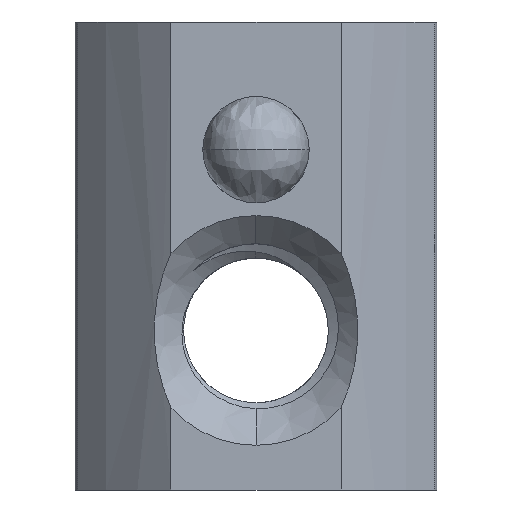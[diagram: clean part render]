
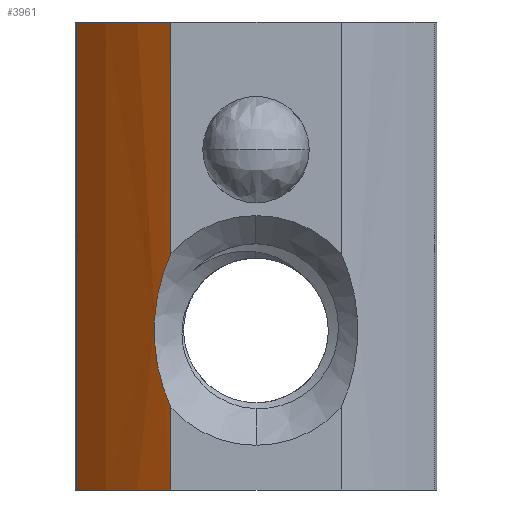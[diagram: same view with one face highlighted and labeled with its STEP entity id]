
A CAD part, front view. The second image highlights one B-rep face of the part: STEP entity #3961.
In plain terms, the highlighted cylindrical face has radius 24.5 mm (diameter 49 mm), a partial arc.
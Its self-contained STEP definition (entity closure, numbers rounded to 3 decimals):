
#33 = CARTESIAN_POINT ( 'NONE',  ( -4., -9.6, 11.128 ) ) ;
#372 = CARTESIAN_POINT ( 'NONE',  ( -4., -9.6, 22. ) ) ;
#762 = CARTESIAN_POINT ( 'NONE',  ( -4.447, -9.26, 5.01 ) ) ;
#875 = EDGE_CURVE ( 'NONE', #2333, #2436, #3108, .T. ) ;
#1174 = CARTESIAN_POINT ( 'NONE',  ( -4., -9.6, 3.872 ) ) ;
#1187 = LINE ( 'NONE', #8102, #2527 ) ;
#1288 = AXIS2_PLACEMENT_3D ( 'NONE', #1389, #6654, #2152 ) ;
#1304 = DIRECTION ( 'NONE',  ( 1., 0., 0. ) ) ;
#1389 = CARTESIAN_POINT ( 'NONE',  ( 10.617, 10.062, 22. ) ) ;
#1531 = CARTESIAN_POINT ( 'NONE',  ( -4.702, -9.059, 6.234 ) ) ;
#1791 = AXIS2_PLACEMENT_3D ( 'NONE', #8027, #6533, #1304 ) ;
#2085 = EDGE_CURVE ( 'NONE', #9627, #6494, #7374, .T. ) ;
#2152 = DIRECTION ( 'NONE',  ( 1., 0., 0. ) ) ;
#2304 = CARTESIAN_POINT ( 'NONE',  ( -4.788, -8.989, 7.183 ) ) ;
#2333 = VERTEX_POINT ( 'NONE', #372 ) ;
#2436 = VERTEX_POINT ( 'NONE', #8483 ) ;
#2527 = VECTOR ( 'NONE', #8069, 1000. ) ;
#2533 = VECTOR ( 'NONE', #3319, 1000. ) ;
#3043 = CARTESIAN_POINT ( 'NONE',  ( -4.772, -9.002, 8.126 ) ) ;
#3108 = CIRCLE ( 'NONE', #1288, 24.5 ) ;
#3137 = ORIENTED_EDGE ( 'NONE', *, *, #875, .T. ) ;
#3288 = CARTESIAN_POINT ( 'NONE',  ( 10.617, 10.062, 0. ) ) ;
#3319 = DIRECTION ( 'NONE',  ( 0., 0., 1. ) ) ;
#3370 = LINE ( 'NONE', #4705, #9121 ) ;
#3611 = VERTEX_POINT ( 'NONE', #5780 ) ;
#3793 = CARTESIAN_POINT ( 'NONE',  ( -4.651, -9.099, 9.068 ) ) ;
#3949 = DIRECTION ( 'NONE',  ( 0., 0., -1. ) ) ;
#3961 = ADVANCED_FACE ( 'NONE', ( #7836 ), #6925, .T. ) ;
#4040 = DIRECTION ( 'NONE',  ( 1., 0., 0. ) ) ;
#4503 = LINE ( 'NONE', #7806, #2533 ) ;
#4546 = CARTESIAN_POINT ( 'NONE',  ( -4.252, -9.412, 10.57 ) ) ;
#4705 = CARTESIAN_POINT ( 'NONE',  ( -8.388, -5.4, 22. ) ) ;
#4736 = EDGE_LOOP ( 'NONE', ( #5689, #4900, #7043, #3137, #9562, #7436 ) ) ;
#4900 = ORIENTED_EDGE ( 'NONE', *, *, #2085, .T. ) ;
#5052 = EDGE_CURVE ( 'NONE', #2436, #3611, #3370, .T. ) ;
#5263 = CARTESIAN_POINT ( 'NONE',  ( -4., -9.6, 0. ) ) ;
#5284 = CARTESIAN_POINT ( 'NONE',  ( -4., -9.6, 3.872 ) ) ;
#5689 = ORIENTED_EDGE ( 'NONE', *, *, #8851, .T. ) ;
#5744 = EDGE_CURVE ( 'NONE', #6494, #2333, #4503, .T. ) ;
#5780 = CARTESIAN_POINT ( 'NONE',  ( -8.388, -5.4, 0. ) ) ;
#5885 = CARTESIAN_POINT ( 'NONE',  ( -4., -9.6, 11.128 ) ) ;
#6036 = CARTESIAN_POINT ( 'NONE',  ( -4.649, -9.1, 5.922 ) ) ;
#6494 = VERTEX_POINT ( 'NONE', #5885 ) ;
#6533 = DIRECTION ( 'NONE',  ( 0., 0., 1. ) ) ;
#6654 = DIRECTION ( 'NONE',  ( 0., 0., -1. ) ) ;
#6792 = CARTESIAN_POINT ( 'NONE',  ( -4.771, -9.003, 6.867 ) ) ;
#6925 = CYLINDRICAL_SURFACE ( 'NONE', #1791, 24.5 ) ;
#7043 = ORIENTED_EDGE ( 'NONE', *, *, #5744, .T. ) ;
#7183 = EDGE_CURVE ( 'NONE', #3611, #7999, #8607, .T. ) ;
#7374 = B_SPLINE_CURVE_WITH_KNOTS ( 'NONE', 3,
 ( #5284, #9772, #762, #6036, #1531, #6792, #2304, #7542, #3043, #8288, #3793, #9040, #4546, #33 ),
 .UNSPECIFIED., .F., .F.,
 ( 4, 2, 2, 2, 2, 2, 4 ),
 ( 0., 0.002, 0.003, 0.004, 0.005, 0.006, 0.008 ),
 .UNSPECIFIED. ) ;
#7436 = ORIENTED_EDGE ( 'NONE', *, *, #7183, .T. ) ;
#7542 = CARTESIAN_POINT ( 'NONE',  ( -4.789, -8.988, 7.812 ) ) ;
#7806 = CARTESIAN_POINT ( 'NONE',  ( -4., -9.6, 22. ) ) ;
#7836 = FACE_OUTER_BOUND ( 'NONE', #4736, .T. ) ;
#7999 = VERTEX_POINT ( 'NONE', #5263 ) ;
#8027 = CARTESIAN_POINT ( 'NONE',  ( 10.617, 10.062, 22. ) ) ;
#8069 = DIRECTION ( 'NONE',  ( 0., 0., 1. ) ) ;
#8102 = CARTESIAN_POINT ( 'NONE',  ( -4., -9.6, 22. ) ) ;
#8288 = CARTESIAN_POINT ( 'NONE',  ( -4.703, -9.057, 8.753 ) ) ;
#8411 = AXIS2_PLACEMENT_3D ( 'NONE', #3288, #8526, #4040 ) ;
#8483 = CARTESIAN_POINT ( 'NONE',  ( -8.388, -5.4, 22. ) ) ;
#8526 = DIRECTION ( 'NONE',  ( 0., 0., 1. ) ) ;
#8607 = CIRCLE ( 'NONE', #8411, 24.5 ) ;
#8851 = EDGE_CURVE ( 'NONE', #7999, #9627, #1187, .T. ) ;
#9040 = CARTESIAN_POINT ( 'NONE',  ( -4.449, -9.259, 9.987 ) ) ;
#9121 = VECTOR ( 'NONE', #3949, 1000. ) ;
#9562 = ORIENTED_EDGE ( 'NONE', *, *, #5052, .T. ) ;
#9627 = VERTEX_POINT ( 'NONE', #1174 ) ;
#9772 = CARTESIAN_POINT ( 'NONE',  ( -4.252, -9.413, 4.429 ) ) ;
